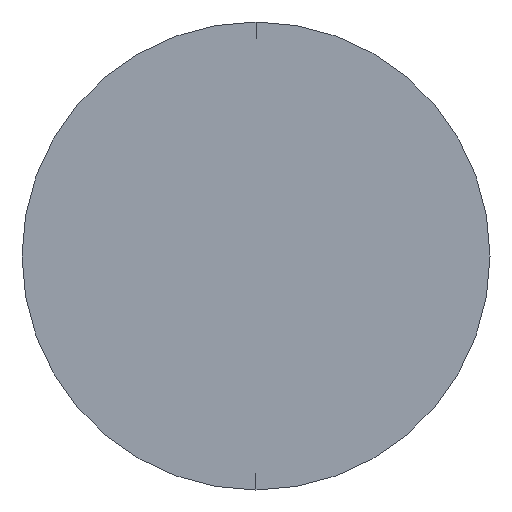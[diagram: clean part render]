
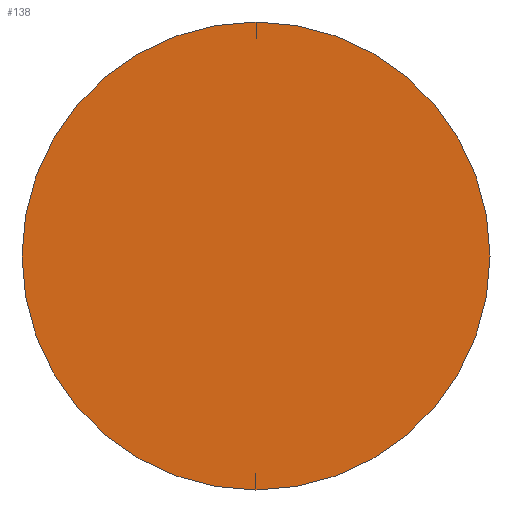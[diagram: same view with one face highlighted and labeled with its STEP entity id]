
A CAD part, left-side view. The second image highlights one B-rep face of the part: STEP entity #138.
In plain terms, the highlighted planar face has unit normal (-1, 0, 0).
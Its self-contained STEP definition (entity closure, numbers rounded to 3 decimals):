
#28 = CARTESIAN_POINT ( 'NONE',  ( 0., 0., 0. ) ) ;
#30 = DIRECTION ( 'NONE',  ( -1., 0., 0. ) ) ;
#35 = DIRECTION ( 'NONE',  ( 0., 0., 1. ) ) ;
#52 = CARTESIAN_POINT ( 'NONE',  ( 0., 0., 0. ) ) ;
#76 = PLANE ( 'NONE',  #255 ) ;
#84 = ORIENTED_EDGE ( 'NONE', *, *, #99, .T. ) ;
#85 = AXIS2_PLACEMENT_3D ( 'NONE', #28, #30, #35 ) ;
#86 = DIRECTION ( 'NONE',  ( 1., 0., 0. ) ) ;
#93 = DIRECTION ( 'NONE',  ( 0., 0., -1. ) ) ;
#99 = EDGE_CURVE ( 'NONE', #175, #211, #173, .T. ) ;
#113 = AXIS2_PLACEMENT_3D ( 'NONE', #198, #200, #201 ) ;
#118 = FACE_OUTER_BOUND ( 'NONE', #256, .T. ) ;
#138 = ADVANCED_FACE ( 'NONE', ( #118 ), #76, .F. ) ;
#165 = CARTESIAN_POINT ( 'NONE',  ( 0., 0., 1.1 ) ) ;
#173 = CIRCLE ( 'NONE', #85, 1.1 ) ;
#175 = VERTEX_POINT ( 'NONE', #206 ) ;
#197 = CIRCLE ( 'NONE', #113, 1.1 ) ;
#198 = CARTESIAN_POINT ( 'NONE',  ( 0., 0., 0. ) ) ;
#200 = DIRECTION ( 'NONE',  ( -1., 0., 0. ) ) ;
#201 = DIRECTION ( 'NONE',  ( 0., 0., 1. ) ) ;
#206 = CARTESIAN_POINT ( 'NONE',  ( 0., 0., -1.1 ) ) ;
#211 = VERTEX_POINT ( 'NONE', #165 ) ;
#224 = EDGE_CURVE ( 'NONE', #211, #175, #197, .T. ) ;
#230 = ORIENTED_EDGE ( 'NONE', *, *, #224, .T. ) ;
#255 = AXIS2_PLACEMENT_3D ( 'NONE', #52, #86, #93 ) ;
#256 = EDGE_LOOP ( 'NONE', ( #230, #84 ) ) ;
